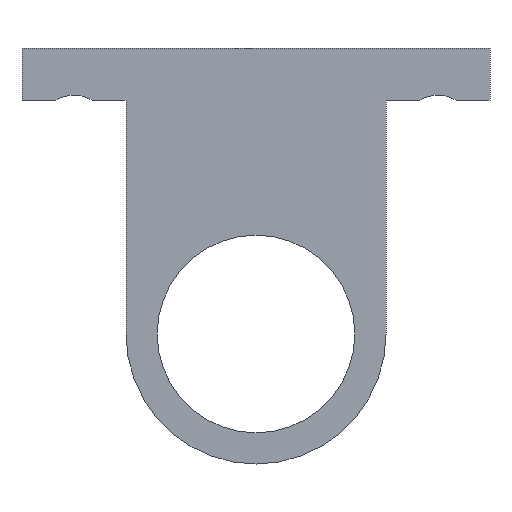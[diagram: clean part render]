
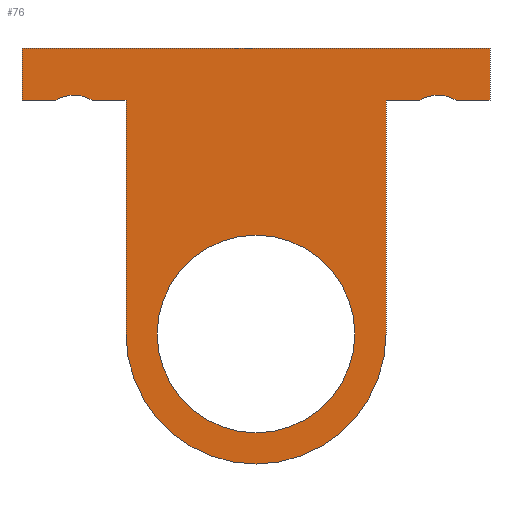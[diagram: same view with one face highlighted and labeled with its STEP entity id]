
A CAD part, front view. The second image highlights one B-rep face of the part: STEP entity #76.
In plain terms, the highlighted planar face has unit normal (0, -1, 0).
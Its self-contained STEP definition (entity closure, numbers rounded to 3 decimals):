
#44=FACE_BOUND('',#118,.T.);
#45=FACE_BOUND('',#119,.T.);
#59=B_SPLINE_CURVE_WITH_KNOTS('',3,(#591,#592,#593,#594,#595,#596),
 .UNSPECIFIED.,.F.,.F.,(4,2,4),(0.,0.5,1.),.UNSPECIFIED.);
#60=B_SPLINE_CURVE_WITH_KNOTS('',3,(#602,#603,#604,#605,#606,#607),
 .UNSPECIFIED.,.F.,.F.,(4,2,4),(0.,0.5,1.),.UNSPECIFIED.);
#76=ADVANCED_FACE('NONE',(#44,#45),#92,.F.);
#92=PLANE('',#412);
#118=EDGE_LOOP('',(#182,#183,#184,#185,#186,#187,#188,#189,#190,#191,#192,
#193,#194));
#119=EDGE_LOOP('',(#195,#196));
#143=CIRCLE('',#403,12.5);
#145=CIRCLE('',#406,12.5);
#146=CIRCLE('',#408,9.5);
#148=CIRCLE('',#411,9.5);
#182=ORIENTED_EDGE('',*,*,#288,.F.);
#183=ORIENTED_EDGE('',*,*,#313,.T.);
#184=ORIENTED_EDGE('',*,*,#298,.F.);
#185=ORIENTED_EDGE('',*,*,#314,.F.);
#186=ORIENTED_EDGE('',*,*,#315,.F.);
#187=ORIENTED_EDGE('',*,*,#316,.F.);
#188=ORIENTED_EDGE('',*,*,#292,.F.);
#189=ORIENTED_EDGE('',*,*,#317,.T.);
#190=ORIENTED_EDGE('',*,*,#294,.F.);
#191=ORIENTED_EDGE('',*,*,#318,.F.);
#192=ORIENTED_EDGE('',*,*,#308,.T.);
#193=ORIENTED_EDGE('',*,*,#304,.T.);
#194=ORIENTED_EDGE('',*,*,#319,.F.);
#195=ORIENTED_EDGE('',*,*,#310,.T.);
#196=ORIENTED_EDGE('',*,*,#320,.T.);
#254=VERTEX_POINT('',#535);
#255=VERTEX_POINT('',#537);
#258=VERTEX_POINT('',#544);
#259=VERTEX_POINT('',#546);
#260=VERTEX_POINT('',#550);
#261=VERTEX_POINT('',#551);
#264=VERTEX_POINT('',#559);
#265=VERTEX_POINT('',#560);
#270=VERTEX_POINT('',#571);
#271=VERTEX_POINT('',#573);
#273=VERTEX_POINT('',#578);
#274=VERTEX_POINT('',#583);
#276=VERTEX_POINT('',#586);
#278=VERTEX_POINT('',#598);
#279=VERTEX_POINT('',#600);
#288=EDGE_CURVE('NONE',#254,#255,#336,.T.);
#292=EDGE_CURVE('NONE',#258,#259,#339,.T.);
#294=EDGE_CURVE('',#260,#261,#341,.T.);
#298=EDGE_CURVE('',#264,#265,#344,.T.);
#304=EDGE_CURVE('NONE',#271,#270,#143,.T.);
#308=EDGE_CURVE('NONE',#273,#271,#145,.T.);
#310=EDGE_CURVE('NONE',#276,#274,#146,.T.);
#313=EDGE_CURVE('',#254,#265,#59,.T.);
#314=EDGE_CURVE('NONE',#278,#264,#352,.T.);
#315=EDGE_CURVE('NONE',#279,#278,#353,.T.);
#316=EDGE_CURVE('NONE',#259,#279,#354,.T.);
#317=EDGE_CURVE('',#258,#261,#60,.T.);
#318=EDGE_CURVE('NONE',#273,#260,#355,.T.);
#319=EDGE_CURVE('NONE',#255,#270,#356,.T.);
#320=EDGE_CURVE('NONE',#274,#276,#148,.T.);
#336=LINE('',#536,#365);
#339=LINE('',#545,#368);
#341=LINE('',#549,#370);
#344=LINE('',#558,#373);
#352=LINE('',#597,#381);
#353=LINE('',#599,#382);
#354=LINE('',#601,#383);
#355=LINE('',#608,#384);
#356=LINE('',#609,#385);
#365=VECTOR('',#434,1.);
#368=VECTOR('',#441,1.);
#370=VECTOR('',#445,1.);
#373=VECTOR('',#452,1.);
#381=VECTOR('',#482,1.);
#382=VECTOR('',#483,1.);
#383=VECTOR('',#484,1.);
#384=VECTOR('',#485,1.);
#385=VECTOR('',#486,1.);
#403=AXIS2_PLACEMENT_3D('',#572,#462,#463);
#406=AXIS2_PLACEMENT_3D('',#580,#470,#471);
#408=AXIS2_PLACEMENT_3D('',#585,#475,#476);
#411=AXIS2_PLACEMENT_3D('',#610,#487,#488);
#412=AXIS2_PLACEMENT_3D('',#611,#489,#490);
#434=DIRECTION('',(-1.,0.,0.));
#441=DIRECTION('',(-1.,0.,0.));
#445=DIRECTION('',(-1.,0.,0.));
#452=DIRECTION('',(-1.,0.,0.));
#462=DIRECTION('',(0.,-1.,0.));
#463=DIRECTION('',(0.,0.,1.));
#470=DIRECTION('',(0.,-1.,0.));
#471=DIRECTION('',(0.,0.,1.));
#475=DIRECTION('',(0.,1.,0.));
#476=DIRECTION('',(0.,0.,1.));
#482=DIRECTION('',(0.,0.,-1.));
#483=DIRECTION('',(1.,0.,0.));
#484=DIRECTION('',(0.,0.,1.));
#485=DIRECTION('',(0.,0.,1.));
#486=DIRECTION('',(0.,0.,-1.));
#487=DIRECTION('',(0.,1.,0.));
#488=DIRECTION('',(0.,0.,1.));
#489=DIRECTION('',(0.,1.,0.));
#490=DIRECTION('',(0.,0.,1.));
#535=CARTESIAN_POINT('',(15.756,0.,-5.));
#536=CARTESIAN_POINT('',(12.5,0.,-5.));
#537=CARTESIAN_POINT('',(12.5,0.,-5.));
#544=CARTESIAN_POINT('',(-19.244,0.,-5.));
#545=CARTESIAN_POINT('',(-12.5,0.,-5.));
#546=CARTESIAN_POINT('',(-22.5,0.,-5.));
#549=CARTESIAN_POINT('',(-12.5,0.,-5.));
#550=CARTESIAN_POINT('',(-12.5,0.,-5.));
#551=CARTESIAN_POINT('',(-15.756,0.,-5.));
#558=CARTESIAN_POINT('',(12.5,0.,-5.));
#559=CARTESIAN_POINT('',(22.5,0.,-5.));
#560=CARTESIAN_POINT('',(19.244,0.,-5.));
#571=CARTESIAN_POINT('',(12.5,0.,-27.5));
#572=CARTESIAN_POINT('',(0.,0.,-27.5));
#573=CARTESIAN_POINT('',(0.,0.,-40.));
#578=CARTESIAN_POINT('',(-12.5,0.,-27.5));
#580=CARTESIAN_POINT('',(0.,0.,-27.5));
#583=CARTESIAN_POINT('',(0.,0.,-37.));
#585=CARTESIAN_POINT('',(0.,0.,-27.5));
#586=CARTESIAN_POINT('',(0.,0.,-18.));
#591=CARTESIAN_POINT('',(15.756,0.,-5.));
#592=CARTESIAN_POINT('',(16.301,0.,-4.726));
#593=CARTESIAN_POINT('',(16.884,0.,-4.531));
#594=CARTESIAN_POINT('',(18.103,0.,-4.529));
#595=CARTESIAN_POINT('',(18.696,0.,-4.725));
#596=CARTESIAN_POINT('',(19.244,0.,-5.));
#597=CARTESIAN_POINT('',(22.5,0.,-5.));
#598=CARTESIAN_POINT('',(22.5,0.,0.));
#599=CARTESIAN_POINT('',(-22.5,0.,0.));
#600=CARTESIAN_POINT('',(-22.5,0.,0.));
#601=CARTESIAN_POINT('',(-22.5,0.,-5.));
#602=CARTESIAN_POINT('',(-19.244,0.,-5.));
#603=CARTESIAN_POINT('',(-18.699,0.,-4.726));
#604=CARTESIAN_POINT('',(-18.116,0.,-4.531));
#605=CARTESIAN_POINT('',(-16.897,0.,-4.529));
#606=CARTESIAN_POINT('',(-16.304,0.,-4.725));
#607=CARTESIAN_POINT('',(-15.756,0.,-5.));
#608=CARTESIAN_POINT('',(-12.5,0.,-5.));
#609=CARTESIAN_POINT('',(12.5,0.,-5.));
#610=CARTESIAN_POINT('',(0.,0.,-27.5));
#611=CARTESIAN_POINT('',(0.,0.,0.));
